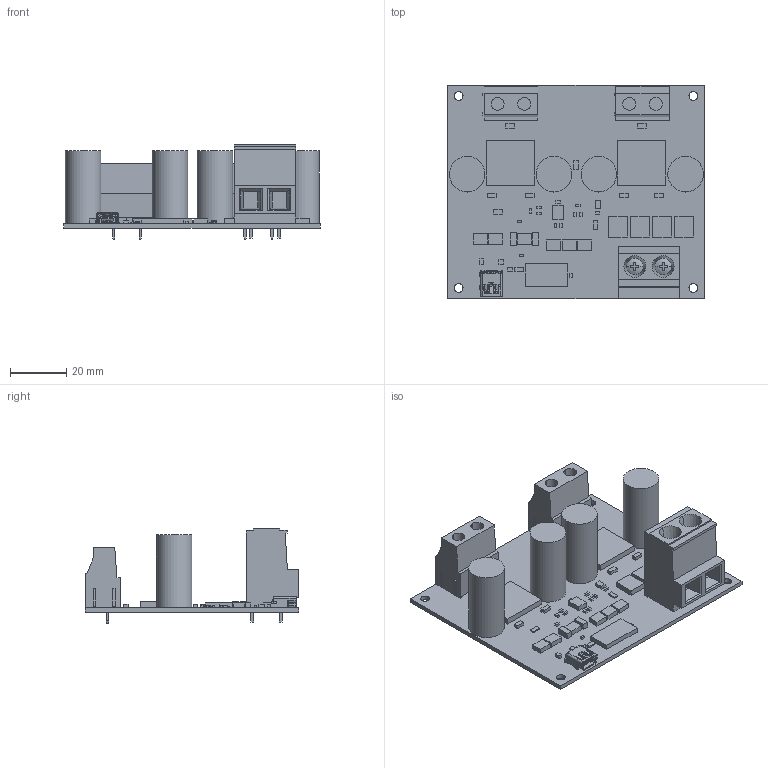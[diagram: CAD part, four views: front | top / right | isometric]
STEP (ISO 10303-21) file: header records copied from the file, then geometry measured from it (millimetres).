
FILE_DESCRIPTION(('Open CASCADE Model'),'2;1');
FILE_NAME('Open CASCADE Shape Model','2010-10-27T13:29:50',('Author'),( 'Open CASCADE'),'Open CASCADE STEP processor 6.2','Open CASCADE 6.2' ,'Unknown');
FILE_SCHEMA(('AUTOMOTIVE_DESIGN { 1 0 10303 214 1 1 1 1 }'));
Length unit declared in the file: millimetre
Products named in the file (96): PCB; Board; U9; 603630352; Extruded; U4; 603630480; R30; 489473088; R29; 489472960; R11; R7; 489472704; R6; R5; R4; R1; 489473344; C21; C20; C3; C2; C1; C18; 603648656; C17; R3; 489472832; L1; 489473472; J1; 399700102; Open CASCADE STEP translator 6.2 246.21.1.1; Open CASCADE STEP translator 6.2 246.21.1.2; U16; 603623184; U15; U14; 603639696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
Assembly tree (126 placements, depth 4):
  PCB
    Board
    U9
      603630352
        Extruded
    U4
      603630480
        Extruded
    R30
      489473088
        Extruded
    R29
      489472960
        Extruded
    R11
      489473088
        Extruded
    R7
      489472704
        Extruded
    R6
      489473088
        Extruded
    R5
      489472960
        Extruded
    R4
      489473088
        Extruded
    R1
      489473344
        Extruded
    C21
      489472960
        Extruded
    C20
      489472960
        Extruded
    C3
      489472960
        Extruded
    C2
      489472960
        Extruded
    C1
      489473088
        Extruded
    C18
      603648656
        Extruded
    C17
      603648656
        Extruded
    R3
      489472832
        Extruded
    L1
      489473472
        Extruded
    J1
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Bounding box: 91.44 x 76.25 x 33.66 mm (x, y, z)
Volume: 41322.3 mm3; surface area: 33562.4 mm2
Topology: 52 solids, 52 shells, 1119 faces, 2956 edges, 1996 vertices
Faces by surface type: plane 956, cylinder 125, bspline 18, cone 16, sphere 4
Full cylindrical faces by diameter (mm): 0.8 x5, 1.067 x8, 1.6 x4, 2.184 x4, 3.175 x4, 12.7 x4
Entity records: 64684 total; most frequent: CARTESIAN_POINT 15997, DIRECTION 8621, LINE 5951, VECTOR 5951, ORIENTED_EDGE 4702, PCURVE 4702, DEFINITIONAL_REPRESENTATION 4702, EDGE_CURVE 2351
